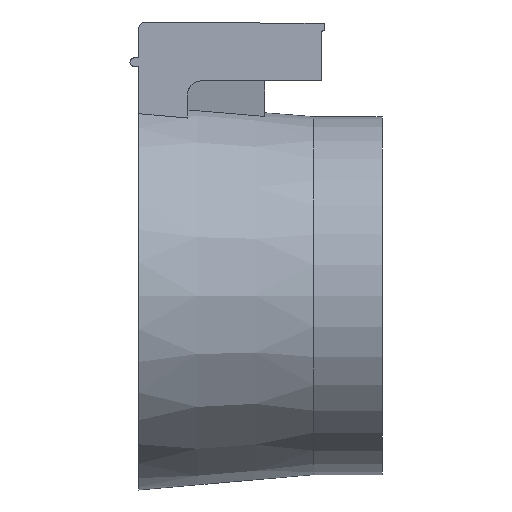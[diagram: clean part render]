
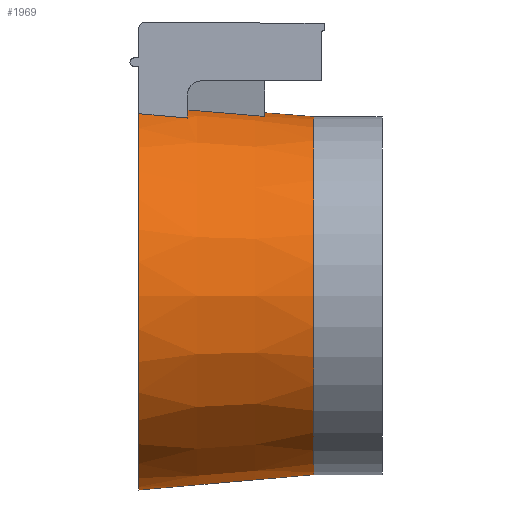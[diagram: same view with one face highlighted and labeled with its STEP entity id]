
A CAD part, front view. The second image highlights one B-rep face of the part: STEP entity #1969.
In plain terms, the highlighted conical face has half-angle 5 degrees and reference radius 13 mm.
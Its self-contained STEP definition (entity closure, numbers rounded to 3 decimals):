
#14=(
BOUNDED_CURVE()
B_SPLINE_CURVE(2,(#3341,#3342,#3343),.UNSPECIFIED.,.F.,.F.)
B_SPLINE_CURVE_WITH_KNOTS((3,3),(23.692,24.135),
 .UNSPECIFIED.)
CURVE()
GEOMETRIC_REPRESENTATION_ITEM()
RATIONAL_B_SPLINE_CURVE((6.371,6.415,6.459))
REPRESENTATION_ITEM('')
);
#15=(
BOUNDED_CURVE()
B_SPLINE_CURVE(2,(#3398,#3399,#3400),.UNSPECIFIED.,.F.,.F.)
B_SPLINE_CURVE_WITH_KNOTS((3,3),(23.692,24.135),
 .UNSPECIFIED.)
CURVE()
GEOMETRIC_REPRESENTATION_ITEM()
RATIONAL_B_SPLINE_CURVE((6.371,6.415,6.459))
REPRESENTATION_ITEM('')
);
#57=CONICAL_SURFACE('',#2118,13.,0.087);
#93=CIRCLE('',#2119,12.5);
#94=CIRCLE('',#2120,13.273);
#95=CIRCLE('',#2121,12.8);
#96=CIRCLE('',#2122,13.273);
#97=CIRCLE('',#2123,13.57);
#109=FACE_BOUND('',#401,.T.);
#283=FACE_OUTER_BOUND('',#400,.T.);
#400=EDGE_LOOP('',(#1790));
#401=EDGE_LOOP('',(#1791,#1792,#1793,#1794,#1795,#1796,#1797,#1798,#1799,
#1800));
#578=LINE('',#3339,#783);
#599=LINE('',#3402,#804);
#608=LINE('',#3424,#813);
#609=LINE('',#3428,#814);
#783=VECTOR('',#2501,10.);
#804=VECTOR('',#2542,10.);
#813=VECTOR('',#2569,10.);
#814=VECTOR('',#2572,10.);
#997=VERTEX_POINT('',#3336);
#998=VERTEX_POINT('',#3338);
#999=VERTEX_POINT('',#3340);
#1022=VERTEX_POINT('',#3395);
#1023=VERTEX_POINT('',#3397);
#1024=VERTEX_POINT('',#3401);
#1026=VERTEX_POINT('',#3419);
#1027=VERTEX_POINT('',#3421);
#1028=VERTEX_POINT('',#3423);
#1029=VERTEX_POINT('',#3425);
#1030=VERTEX_POINT('',#3427);
#1252=EDGE_CURVE('',#998,#997,#578,.F.);
#1253=EDGE_CURVE('',#999,#998,#14,.F.);
#1281=EDGE_CURVE('',#1023,#1022,#15,.T.);
#1282=EDGE_CURVE('',#1024,#1023,#599,.T.);
#1291=EDGE_CURVE('',#1026,#1026,#93,.T.);
#1292=EDGE_CURVE('',#1022,#1027,#94,.T.);
#1293=EDGE_CURVE('',#1027,#1028,#608,.T.);
#1294=EDGE_CURVE('',#1028,#1029,#95,.T.);
#1295=EDGE_CURVE('',#1029,#1030,#609,.T.);
#1296=EDGE_CURVE('',#1030,#999,#96,.T.);
#1297=EDGE_CURVE('',#997,#1024,#97,.T.);
#1790=ORIENTED_EDGE('',*,*,#1291,.T.);
#1791=ORIENTED_EDGE('',*,*,#1292,.T.);
#1792=ORIENTED_EDGE('',*,*,#1293,.T.);
#1793=ORIENTED_EDGE('',*,*,#1294,.T.);
#1794=ORIENTED_EDGE('',*,*,#1295,.T.);
#1795=ORIENTED_EDGE('',*,*,#1296,.T.);
#1796=ORIENTED_EDGE('',*,*,#1253,.T.);
#1797=ORIENTED_EDGE('',*,*,#1252,.T.);
#1798=ORIENTED_EDGE('',*,*,#1297,.T.);
#1799=ORIENTED_EDGE('',*,*,#1282,.T.);
#1800=ORIENTED_EDGE('',*,*,#1281,.T.);
#1969=ADVANCED_FACE('',(#283,#109),#57,.T.);
#2118=AXIS2_PLACEMENT_3D('',#3418,#2563,#2564);
#2119=AXIS2_PLACEMENT_3D('',#3420,#2565,#2566);
#2120=AXIS2_PLACEMENT_3D('',#3422,#2567,#2568);
#2121=AXIS2_PLACEMENT_3D('',#3426,#2570,#2571);
#2122=AXIS2_PLACEMENT_3D('',#3429,#2573,#2574);
#2123=AXIS2_PLACEMENT_3D('',#3430,#2575,#2576);
#2501=DIRECTION('',(0.996,0.009,-0.09));
#2542=DIRECTION('',(0.996,-0.009,-0.09));
#2563=DIRECTION('center_axis',(-1.,0.,0.));
#2564=DIRECTION('ref_axis',(0.,-1.,0.));
#2565=DIRECTION('center_axis',(-1.,0.,0.));
#2566=DIRECTION('ref_axis',(0.,-1.,0.));
#2567=DIRECTION('center_axis',(1.,0.,0.));
#2568=DIRECTION('ref_axis',(0.,-1.,0.));
#2569=DIRECTION('',(0.996,-0.024,-0.084));
#2570=DIRECTION('center_axis',(1.,0.,0.));
#2571=DIRECTION('ref_axis',(0.,-1.,0.));
#2572=DIRECTION('',(-0.996,-0.024,0.084));
#2573=DIRECTION('center_axis',(1.,0.,0.));
#2574=DIRECTION('ref_axis',(0.,-1.,0.));
#2575=DIRECTION('center_axis',(1.,0.,0.));
#2576=DIRECTION('ref_axis',(0.,0.,-1.));
#3336=CARTESIAN_POINT('',(-0.8,-4.762,12.707));
#3338=CARTESIAN_POINT('',(-0.003,-4.755,12.635));
#3339=CARTESIAN_POINT('',(-0.8,-4.762,12.707));
#3340=CARTESIAN_POINT('',(2.6,-4.732,12.4));
#3341=CARTESIAN_POINT('Ctrl Pts',(-0.003,-4.755,
12.635));
#3342=CARTESIAN_POINT('Ctrl Pts',(1.311,-4.743,12.517));
#3343=CARTESIAN_POINT('Ctrl Pts',(2.6,-4.732,12.4));
#3395=CARTESIAN_POINT('',(2.6,4.732,12.4));
#3397=CARTESIAN_POINT('',(-0.003,4.755,12.635));
#3398=CARTESIAN_POINT('Ctrl Pts',(-0.003,4.755,
12.635));
#3399=CARTESIAN_POINT('Ctrl Pts',(1.311,4.743,12.517));
#3400=CARTESIAN_POINT('Ctrl Pts',(2.6,4.732,12.4));
#3401=CARTESIAN_POINT('',(-0.8,4.762,12.707));
#3402=CARTESIAN_POINT('',(-0.8,4.762,12.707));
#3418=CARTESIAN_POINT('Origin',(5.715,0.,
0.));
#3419=CARTESIAN_POINT('',(11.43,-12.5,0.));
#3420=CARTESIAN_POINT('Origin',(11.43,0.,
0.));
#3421=CARTESIAN_POINT('',(2.6,2.82,12.97));
#3422=CARTESIAN_POINT('Origin',(2.6,0.,0.));
#3423=CARTESIAN_POINT('',(8.,2.691,12.514));
#3424=CARTESIAN_POINT('',(2.6,2.82,12.97));
#3425=CARTESIAN_POINT('',(8.,-2.691,12.514));
#3426=CARTESIAN_POINT('Origin',(8.,0.,
0.));
#3427=CARTESIAN_POINT('',(2.6,-2.82,12.97));
#3428=CARTESIAN_POINT('',(8.,-2.691,12.514));
#3429=CARTESIAN_POINT('Origin',(2.6,0.,0.));
#3430=CARTESIAN_POINT('Origin',(-0.8,0.,
0.));
